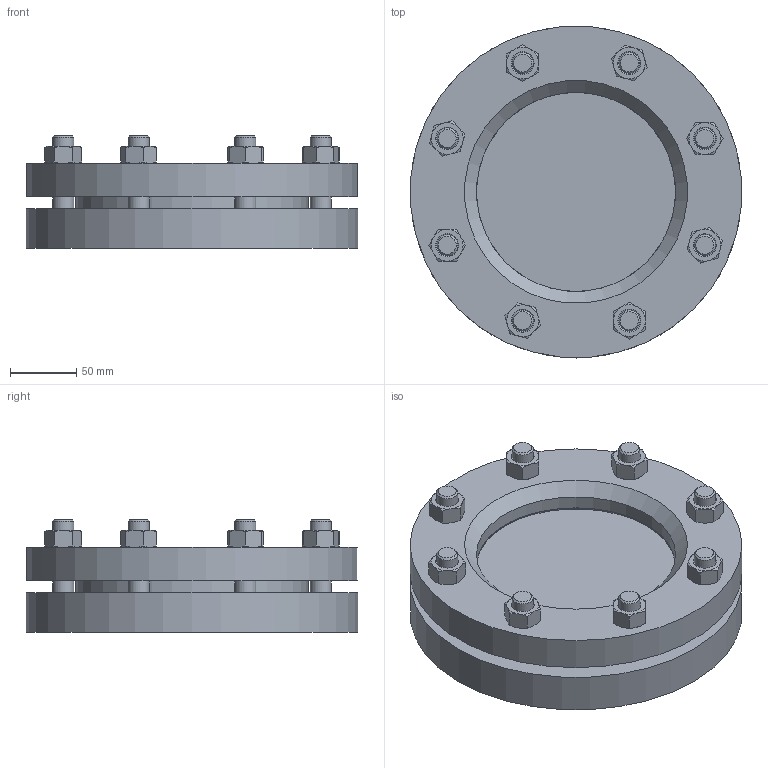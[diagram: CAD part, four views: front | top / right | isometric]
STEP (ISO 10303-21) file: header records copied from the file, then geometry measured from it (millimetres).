
FILE_DESCRIPTION(/* description */ ('Unknown'),/* implementation_level */ '2;1');
FILE_NAME(/* name */ 'Armatur 28120 DN 125 PN10',/* time_stamp */ '2016-08-08T07:34:54+02:00',/* author */ ('Unknown'),/* organization */ ('Unknown'),/* preprocessor_version */ 'ST-DEVELOPER v16.7',/* originating_system */ 'DEX',/* authorisation */ $);
FILE_SCHEMA (('AUTOMOTIVE_DESIGN {1 0 10303 214 3 1 1}'));
Length unit declared in the file: millimetre
Products named in the file (7): 0206.084.38_01; 1345.004.38_01; 0863.178.38_01; 1775.014.38_01; 1346.304.38_01; Stud_DIN_938_1995_CC_M16x55_v12.00; Nut_DIN_934_1987_M16_v10.50
Assembly tree (21 placements, depth 2):
  0206.084.38_01
    1345.004.38_01
    0863.178.38_01  x2
    1775.014.38_01
    1346.304.38_01
    Stud_DIN_938_1995_CC_M16x55_v12.00  x8
    Nut_DIN_934_1987_M16_v10.50  x8
Bounding box: 250 x 250 x 85 mm (x, y, z)
Volume: 2110540.2 mm3; surface area: 342158.4 mm2
Topology: 21 solids, 21 shells, 251 faces, 528 edges, 321 vertices
Faces by surface type: plane 92, cone 92, cylinder 67
Full cylindrical faces by diameter (mm): 13.835 x24, 16 x24, 18 x8, 150 x4, 175 x1, 177 x2, 178 x2, 250 x2
Entity records: 2794 total; most frequent: CARTESIAN_POINT 651, DIRECTION 364, ORIENTED_EDGE 192, AXIS2_PLACEMENT_3D 179, FACE_BOUND 172, EDGE_LOOP 164, VERTEX_POINT 98, EDGE_CURVE 96
